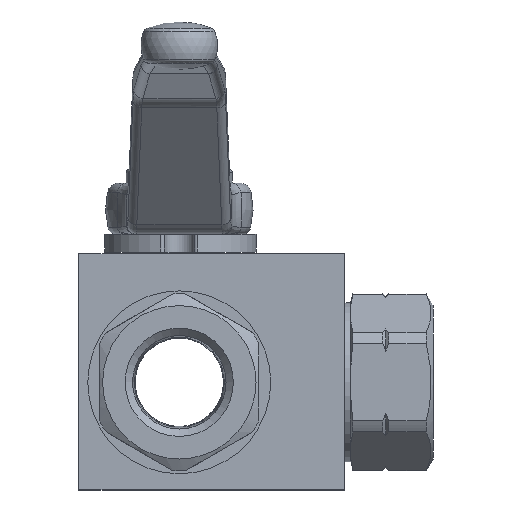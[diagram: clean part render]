
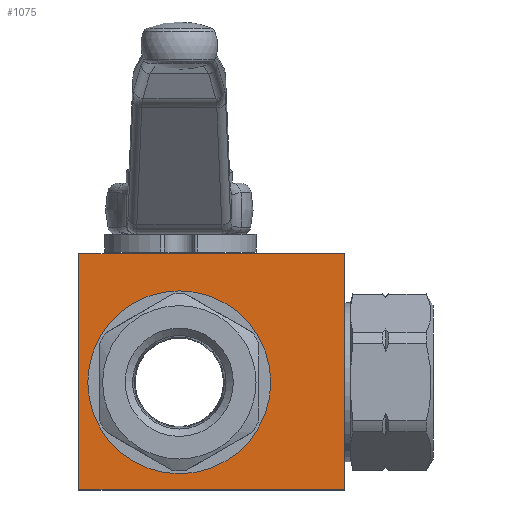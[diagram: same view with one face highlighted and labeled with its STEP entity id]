
A CAD part, front view. The second image highlights one B-rep face of the part: STEP entity #1075.
In plain terms, the highlighted planar face has unit normal (0, -1, 0) as drawn and (0, 1, 0) by its records, which use the part's own axes.
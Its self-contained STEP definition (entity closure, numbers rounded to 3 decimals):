
#1075 = ADVANCED_FACE( '', ( #2207, #2208 ), #2209, .F. );
#2207 = FACE_BOUND( '', #4052, .T. );
#2208 = FACE_OUTER_BOUND( '', #4053, .T. );
#2209 = PLANE( '', #4054 );
#4052 = EDGE_LOOP( '', ( #6986 ) );
#4053 = EDGE_LOOP( '', ( #6987, #6988, #6989, #6990 ) );
#4054 = AXIS2_PLACEMENT_3D( '', #6991, #6992, #6993 );
#6986 = ORIENTED_EDGE( '', *, *, #8857, .F. );
#6987 = ORIENTED_EDGE( '', *, *, #8936, .F. );
#6988 = ORIENTED_EDGE( '', *, *, #9034, .F. );
#6989 = ORIENTED_EDGE( '', *, *, #8942, .F. );
#6990 = ORIENTED_EDGE( '', *, *, #9169, .F. );
#6991 = CARTESIAN_POINT( '', ( -28., 22.5, -18.25 ) );
#6992 = DIRECTION( '', ( 0., -1., 0. ) );
#6993 = DIRECTION( '', ( 0., 0., -1. ) );
#8857 = EDGE_CURVE( '', #10662, #10662, #10663, .T. );
#8936 = EDGE_CURVE( '', #10781, #10782, #10783, .T. );
#8942 = EDGE_CURVE( '', #10790, #10791, #10792, .T. );
#9034 = EDGE_CURVE( '', #10791, #10781, #10931, .T. );
#9169 = EDGE_CURVE( '', #10782, #10790, #11115, .T. );
#10662 = VERTEX_POINT( '', #13598 );
#10663 = CIRCLE( '', #13599, 15.5 );
#10781 = VERTEX_POINT( '', #13772 );
#10782 = VERTEX_POINT( '', #13773 );
#10783 = LINE( '', #13774, #13775 );
#10790 = VERTEX_POINT( '', #13784 );
#10791 = VERTEX_POINT( '', #13785 );
#10792 = LINE( '', #13786, #13787 );
#10931 = LINE( '', #14115, #14116 );
#11115 = LINE( '', #14702, #14703 );
#13598 = CARTESIAN_POINT( '', ( 15.5, 22.5, 0. ) );
#13599 = AXIS2_PLACEMENT_3D( '', #16463, #16464, #16465 );
#13772 = CARTESIAN_POINT( '', ( -28., 22.5, 21.75 ) );
#13773 = CARTESIAN_POINT( '', ( -28., 22.5, -18.25 ) );
#13774 = CARTESIAN_POINT( '', ( -28., 22.5, 21.75 ) );
#13775 = VECTOR( '', #16571, 1000. );
#13784 = CARTESIAN_POINT( '', ( 17., 22.5, -18.25 ) );
#13785 = CARTESIAN_POINT( '', ( 17., 22.5, 21.75 ) );
#13786 = CARTESIAN_POINT( '', ( 17., 22.5, -18.25 ) );
#13787 = VECTOR( '', #16577, 1000. );
#14115 = CARTESIAN_POINT( '', ( 17., 22.5, 21.75 ) );
#14116 = VECTOR( '', #16678, 1000. );
#14702 = CARTESIAN_POINT( '', ( -28., 22.5, -18.25 ) );
#14703 = VECTOR( '', #16822, 1000. );
#16463 = CARTESIAN_POINT( '', ( 0., 22.5, 0. ) );
#16464 = DIRECTION( '', ( 0., 1., 0. ) );
#16465 = DIRECTION( '', ( 1., 0., 0. ) );
#16571 = DIRECTION( '', ( 0., 0., -1. ) );
#16577 = DIRECTION( '', ( 0., 0., 1. ) );
#16678 = DIRECTION( '', ( -1., 0., 0. ) );
#16822 = DIRECTION( '', ( 1., 0., 0. ) );
